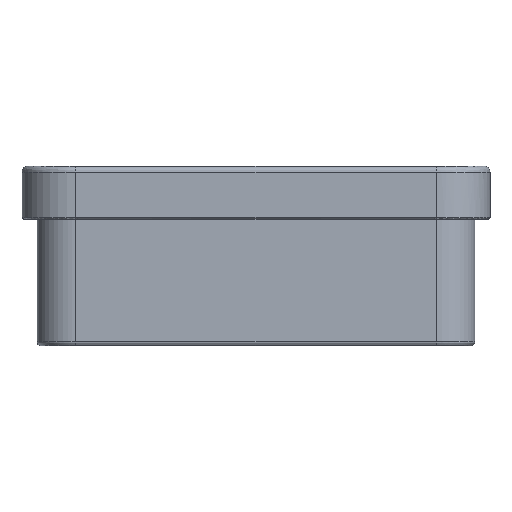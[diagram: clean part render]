
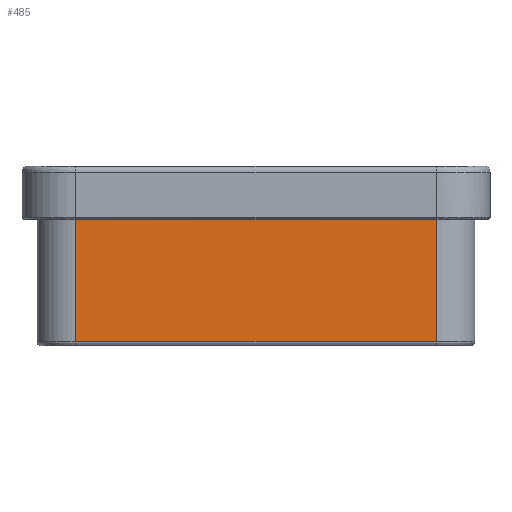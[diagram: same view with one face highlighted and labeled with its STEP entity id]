
A CAD part, left-side view. The second image highlights one B-rep face of the part: STEP entity #485.
In plain terms, the highlighted free-form (B-spline) face has degree [1, 2] with [2, 3] control points.
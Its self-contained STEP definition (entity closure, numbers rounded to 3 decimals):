
#142=(
BOUNDED_CURVE()
B_SPLINE_CURVE(1,(#157157,#157158),.UNSPECIFIED.,.F.,.F.)
B_SPLINE_CURVE_WITH_KNOTS((2,2),(0.,121.177),.UNSPECIFIED.)
CURVE()
GEOMETRIC_REPRESENTATION_ITEM()
RATIONAL_B_SPLINE_CURVE((1.,1.))
REPRESENTATION_ITEM('')
);
#143=(
BOUNDED_CURVE()
B_SPLINE_CURVE(2,(#157159,#157160,#157161),.UNSPECIFIED.,.F.,.F.)
B_SPLINE_CURVE_WITH_KNOTS((3,3),(5.142,6.142),
 .UNSPECIFIED.)
CURVE()
GEOMETRIC_REPRESENTATION_ITEM()
RATIONAL_B_SPLINE_CURVE((1.,1.,1.))
REPRESENTATION_ITEM('')
);
#144=(
BOUNDED_CURVE()
B_SPLINE_CURVE(1,(#157162,#157163),.UNSPECIFIED.,.F.,.F.)
B_SPLINE_CURVE_WITH_KNOTS((2,2),(0.,121.177),.UNSPECIFIED.)
CURVE()
GEOMETRIC_REPRESENTATION_ITEM()
RATIONAL_B_SPLINE_CURVE((1.,1.))
REPRESENTATION_ITEM('')
);
#168=(
BOUNDED_CURVE()
B_SPLINE_CURVE(1,(#157257,#157258),.UNSPECIFIED.,.F.,.F.)
B_SPLINE_CURVE_WITH_KNOTS((2,2),(0.,356.),
 .UNSPECIFIED.)
CURVE()
GEOMETRIC_REPRESENTATION_ITEM()
RATIONAL_B_SPLINE_CURVE((1.,1.))
REPRESENTATION_ITEM('')
);
#320=(
BOUNDED_SURFACE()
B_SPLINE_SURFACE(1,2,((#156596,#156597,#156598),(#156599,#156600,#156601)),
 .UNSPECIFIED.,.F.,.F.,.F.)
B_SPLINE_SURFACE_WITH_KNOTS((2,2),(3,3),(0.,125.177),(5.142,
6.142),.UNSPECIFIED.)
GEOMETRIC_REPRESENTATION_ITEM()
RATIONAL_B_SPLINE_SURFACE(((1.,1.,1.),(1.,1.,1.)))
REPRESENTATION_ITEM('')
SURFACE()
);
#485=ADVANCED_FACE('',(#632),#320,.T.);
#632=FACE_OUTER_BOUND('',#784,.T.);
#784=EDGE_LOOP('',(#1387,#1388,#1389,#1390));
#1387=ORIENTED_EDGE('',*,*,#1882,.T.);
#1388=ORIENTED_EDGE('',*,*,#1852,.F.);
#1389=ORIENTED_EDGE('',*,*,#1851,.F.);
#1390=ORIENTED_EDGE('',*,*,#1850,.T.);
#1850=EDGE_CURVE('',#2349,#2365,#142,.T.);
#1851=EDGE_CURVE('',#2349,#2350,#143,.T.);
#1852=EDGE_CURVE('',#2350,#2366,#144,.T.);
#1882=EDGE_CURVE('',#2365,#2366,#168,.T.);
#2349=VERTEX_POINT('',#157069);
#2350=VERTEX_POINT('',#157070);
#2365=VERTEX_POINT('',#157085);
#2366=VERTEX_POINT('',#157086);
#156596=CARTESIAN_POINT('',(3234.267,12.584,88.311));
#156597=CARTESIAN_POINT('',(3234.267,-156.764,88.311));
#156598=CARTESIAN_POINT('',(3234.267,-326.111,88.311));
#156599=CARTESIAN_POINT('',(3234.267,12.584,-30.781));
#156600=CARTESIAN_POINT('',(3234.267,-156.764,-30.781));
#156601=CARTESIAN_POINT('',(3234.267,-326.111,-30.781));
#157069=CARTESIAN_POINT('',(3234.267,12.584,88.311));
#157070=CARTESIAN_POINT('',(3234.267,-326.111,88.311));
#157085=CARTESIAN_POINT('',(3234.267,12.584,-26.976));
#157086=CARTESIAN_POINT('',(3234.267,-326.111,-26.976));
#157157=CARTESIAN_POINT('',(3234.267,12.584,88.311));
#157158=CARTESIAN_POINT('',(3234.267,12.584,-26.976));
#157159=CARTESIAN_POINT('',(3234.267,12.584,88.311));
#157160=CARTESIAN_POINT('',(3234.267,-156.764,88.311));
#157161=CARTESIAN_POINT('',(3234.267,-326.111,88.311));
#157162=CARTESIAN_POINT('',(3234.267,-326.111,88.311));
#157163=CARTESIAN_POINT('',(3234.267,-326.111,-26.976));
#157257=CARTESIAN_POINT('',(3234.267,12.584,-26.976));
#157258=CARTESIAN_POINT('',(3234.267,-326.111,-26.976));
